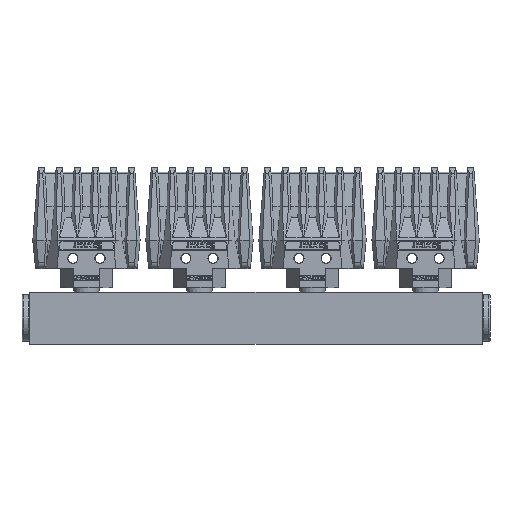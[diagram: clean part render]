
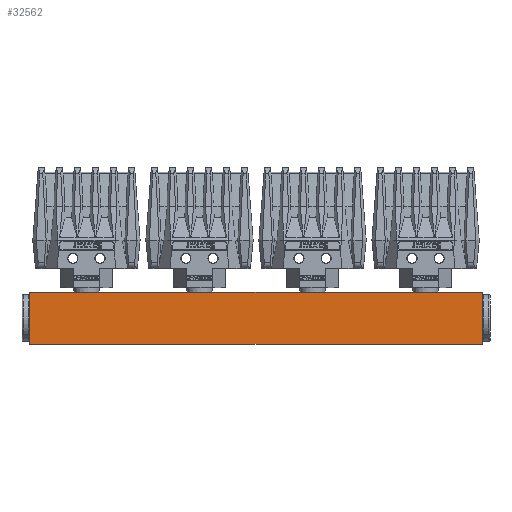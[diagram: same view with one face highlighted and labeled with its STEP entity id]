
A CAD part, top view. The second image highlights one B-rep face of the part: STEP entity #32562.
In plain terms, the highlighted planar face has unit normal (0, 0, 1).
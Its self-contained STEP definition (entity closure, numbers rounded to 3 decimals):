
#119 = CARTESIAN_POINT ( 'NONE',  ( -100., 11.5, 11.5 ) ) ;
#1190 = EDGE_CURVE ( 'NONE', #14557, #9207, #22174, .T. ) ;
#1398 = EDGE_LOOP ( 'NONE', ( #16817, #17634, #19195, #17825 ) ) ;
#1747 = DIRECTION ( 'NONE',  ( -1., 0., 0. ) ) ;
#2699 = CARTESIAN_POINT ( 'NONE',  ( 100., 11.5, 11.5 ) ) ;
#3782 = LINE ( 'NONE', #14317, #29857 ) ;
#4931 = VECTOR ( 'NONE', #32600, 1000. ) ;
#5106 = EDGE_CURVE ( 'NONE', #20627, #9207, #27577, .T. ) ;
#5582 = CARTESIAN_POINT ( 'NONE',  ( 100., -11.5, 11.5 ) ) ;
#5825 = CARTESIAN_POINT ( 'NONE',  ( -100., -11.5, 11.5 ) ) ;
#5980 = VECTOR ( 'NONE', #16878, 1000. ) ;
#9035 = EDGE_CURVE ( 'NONE', #33677, #14557, #3782, .T. ) ;
#9207 = VERTEX_POINT ( 'NONE', #5825 ) ;
#11403 = DIRECTION ( 'NONE',  ( -1., 0., 0. ) ) ;
#14317 = CARTESIAN_POINT ( 'NONE',  ( 100., 11.5, 11.5 ) ) ;
#14557 = VERTEX_POINT ( 'NONE', #119 ) ;
#15614 = EDGE_CURVE ( 'NONE', #33677, #20627, #24915, .T. ) ;
#16323 = PLANE ( 'NONE',  #22738 ) ;
#16817 = ORIENTED_EDGE ( 'NONE', *, *, #1190, .T. ) ;
#16878 = DIRECTION ( 'NONE',  ( 0., -1., 0. ) ) ;
#17634 = ORIENTED_EDGE ( 'NONE', *, *, #5106, .F. ) ;
#17825 = ORIENTED_EDGE ( 'NONE', *, *, #9035, .T. ) ;
#18391 = DIRECTION ( 'NONE',  ( 0., 0., -1. ) ) ;
#19195 = ORIENTED_EDGE ( 'NONE', *, *, #15614, .F. ) ;
#20627 = VERTEX_POINT ( 'NONE', #5582 ) ;
#22011 = CARTESIAN_POINT ( 'NONE',  ( -100., 11.5, 11.5 ) ) ;
#22174 = LINE ( 'NONE', #22011, #4931 ) ;
#22738 = AXIS2_PLACEMENT_3D ( 'NONE', #2699, #18391, #32152 ) ;
#24915 = LINE ( 'NONE', #30101, #5980 ) ;
#25504 = CARTESIAN_POINT ( 'NONE',  ( 100., -11.5, 11.5 ) ) ;
#25521 = CARTESIAN_POINT ( 'NONE',  ( 100., 11.5, 11.5 ) ) ;
#26957 = FACE_OUTER_BOUND ( 'NONE', #1398, .T. ) ;
#27577 = LINE ( 'NONE', #25504, #30296 ) ;
#29857 = VECTOR ( 'NONE', #11403, 1000. ) ;
#30101 = CARTESIAN_POINT ( 'NONE',  ( 100., 11.5, 11.5 ) ) ;
#30296 = VECTOR ( 'NONE', #1747, 1000. ) ;
#32152 = DIRECTION ( 'NONE',  ( 0., 1., 0. ) ) ;
#32562 = ADVANCED_FACE ( 'NONE', ( #26957 ), #16323, .F. ) ;
#32600 = DIRECTION ( 'NONE',  ( 0., -1., 0. ) ) ;
#33677 = VERTEX_POINT ( 'NONE', #25521 ) ;
